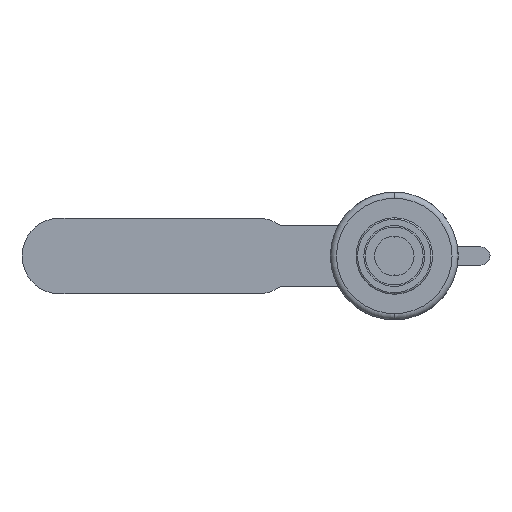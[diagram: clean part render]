
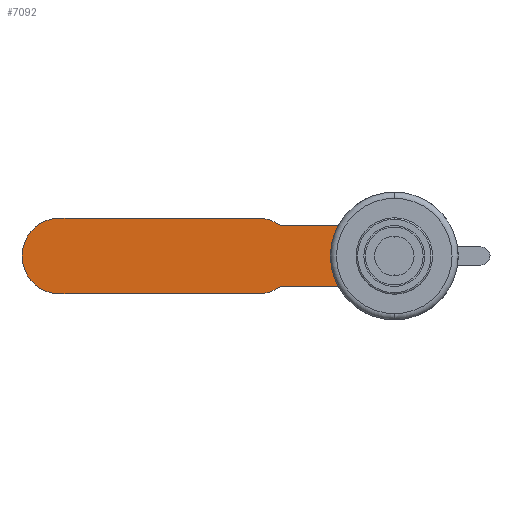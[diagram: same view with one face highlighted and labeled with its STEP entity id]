
A CAD part, left-side view. The second image highlights one B-rep face of the part: STEP entity #7092.
In plain terms, the highlighted planar face has unit normal (-1, 0, 0).
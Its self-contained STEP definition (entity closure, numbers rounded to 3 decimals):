
#51 = ORIENTED_EDGE ( 'NONE', *, *, #4868, .T. ) ;
#158 = LINE ( 'NONE', #6016, #6508 ) ;
#176 = CARTESIAN_POINT ( 'NONE',  ( 20., 45., 0. ) ) ;
#214 = EDGE_CURVE ( 'NONE', #2216, #558, #271, .T. ) ;
#217 = EDGE_CURVE ( 'NONE', #7169, #1317, #4803, .T. ) ;
#271 = LINE ( 'NONE', #4466, #7862 ) ;
#558 = VERTEX_POINT ( 'NONE', #3193 ) ;
#575 = EDGE_CURVE ( 'NONE', #5894, #1856, #1356, .T. ) ;
#589 = AXIS2_PLACEMENT_3D ( 'NONE', #709, #1963, #6244 ) ;
#709 = CARTESIAN_POINT ( 'NONE',  ( 20., 110., 0. ) ) ;
#789 = DIRECTION ( 'NONE',  ( 0., 0., 1. ) ) ;
#794 = AXIS2_PLACEMENT_3D ( 'NONE', #176, #4487, #789 ) ;
#866 = DIRECTION ( 'NONE',  ( -1., 0., 0. ) ) ;
#914 = AXIS2_PLACEMENT_3D ( 'NONE', #6084, #2420, #6706 ) ;
#1005 = CARTESIAN_POINT ( 'NONE',  ( 20., 18.466, -10. ) ) ;
#1077 = CARTESIAN_POINT ( 'NONE',  ( 20., 37.5, -10. ) ) ;
#1317 = VERTEX_POINT ( 'NONE', #2213 ) ;
#1330 = CARTESIAN_POINT ( 'NONE',  ( 20., 18.466, 10. ) ) ;
#1356 = CIRCLE ( 'NONE', #6831, 12.5 ) ;
#1622 = LINE ( 'NONE', #1077, #4101 ) ;
#1856 = VERTEX_POINT ( 'NONE', #5533 ) ;
#1963 = DIRECTION ( 'NONE',  ( -1., 0., 0. ) ) ;
#2000 = CARTESIAN_POINT ( 'NONE',  ( 20., 110., 0. ) ) ;
#2036 = ORIENTED_EDGE ( 'NONE', *, *, #575, .T. ) ;
#2101 = CIRCLE ( 'NONE', #914, 12.5 ) ;
#2178 = AXIS2_PLACEMENT_3D ( 'NONE', #4560, #866, #5178 ) ;
#2213 = CARTESIAN_POINT ( 'NONE',  ( 20., 37.5, -10. ) ) ;
#2216 = VERTEX_POINT ( 'NONE', #1330 ) ;
#2409 = ORIENTED_EDGE ( 'NONE', *, *, #217, .T. ) ;
#2420 = DIRECTION ( 'NONE',  ( -1., 0., 0. ) ) ;
#2606 = EDGE_CURVE ( 'NONE', #558, #5389, #2101, .T. ) ;
#2629 = DIRECTION ( 'NONE',  ( 0., 0., 1. ) ) ;
#2950 = EDGE_CURVE ( 'NONE', #1856, #7169, #158, .T. ) ;
#2985 = ORIENTED_EDGE ( 'NONE', *, *, #214, .T. ) ;
#3193 = CARTESIAN_POINT ( 'NONE',  ( 20., 37.5, 10. ) ) ;
#3229 = DIRECTION ( 'NONE',  ( 0., 1., 0. ) ) ;
#3665 = DIRECTION ( 'NONE',  ( 0., 1., 0. ) ) ;
#4017 = ORIENTED_EDGE ( 'NONE', *, *, #2950, .T. ) ;
#4091 = CARTESIAN_POINT ( 'NONE',  ( 20., 110., 12.5 ) ) ;
#4101 = VECTOR ( 'NONE', #5375, 1000. ) ;
#4314 = ORIENTED_EDGE ( 'NONE', *, *, #4502, .F. ) ;
#4466 = CARTESIAN_POINT ( 'NONE',  ( 20., 0., 10. ) ) ;
#4487 = DIRECTION ( 'NONE',  ( -1., 0., 0. ) ) ;
#4502 = EDGE_CURVE ( 'NONE', #2216, #7838, #5172, .T. ) ;
#4560 = CARTESIAN_POINT ( 'NONE',  ( 20., 0., 0. ) ) ;
#4803 = CIRCLE ( 'NONE', #794, 12.5 ) ;
#4868 = EDGE_CURVE ( 'NONE', #1317, #7838, #1622, .T. ) ;
#5031 = PLANE ( 'NONE',  #589 ) ;
#5172 = CIRCLE ( 'NONE', #2178, 21. ) ;
#5178 = DIRECTION ( 'NONE',  ( 0., 0., 1. ) ) ;
#5340 = ORIENTED_EDGE ( 'NONE', *, *, #5378, .T. ) ;
#5375 = DIRECTION ( 'NONE',  ( 0., -1., 0. ) ) ;
#5378 = EDGE_CURVE ( 'NONE', #5389, #5894, #7736, .T. ) ;
#5389 = VERTEX_POINT ( 'NONE', #6090 ) ;
#5480 = FACE_OUTER_BOUND ( 'NONE', #6462, .T. ) ;
#5533 = CARTESIAN_POINT ( 'NONE',  ( 20., 110., -12.5 ) ) ;
#5717 = CARTESIAN_POINT ( 'NONE',  ( 20., 45., -12.5 ) ) ;
#5894 = VERTEX_POINT ( 'NONE', #4091 ) ;
#5955 = ORIENTED_EDGE ( 'NONE', *, *, #2606, .T. ) ;
#6016 = CARTESIAN_POINT ( 'NONE',  ( 20., 110., -12.5 ) ) ;
#6084 = CARTESIAN_POINT ( 'NONE',  ( 20., 45., 0. ) ) ;
#6090 = CARTESIAN_POINT ( 'NONE',  ( 20., 45., 12.5 ) ) ;
#6094 = VECTOR ( 'NONE', #3665, 1000. ) ;
#6244 = DIRECTION ( 'NONE',  ( 0., 0., 1. ) ) ;
#6276 = DIRECTION ( 'NONE',  ( -1., 0., 0. ) ) ;
#6462 = EDGE_LOOP ( 'NONE', ( #4314, #2985, #5955, #5340, #2036, #4017, #2409, #51 ) ) ;
#6508 = VECTOR ( 'NONE', #7879, 1000. ) ;
#6706 = DIRECTION ( 'NONE',  ( 0., 0., 1. ) ) ;
#6831 = AXIS2_PLACEMENT_3D ( 'NONE', #2000, #6276, #2629 ) ;
#7092 = ADVANCED_FACE ( 'NONE', ( #5480 ), #5031, .T. ) ;
#7169 = VERTEX_POINT ( 'NONE', #5717 ) ;
#7321 = CARTESIAN_POINT ( 'NONE',  ( 20., 110., 12.5 ) ) ;
#7736 = LINE ( 'NONE', #7321, #6094 ) ;
#7838 = VERTEX_POINT ( 'NONE', #1005 ) ;
#7862 = VECTOR ( 'NONE', #3229, 1000. ) ;
#7879 = DIRECTION ( 'NONE',  ( 0., -1., 0. ) ) ;
